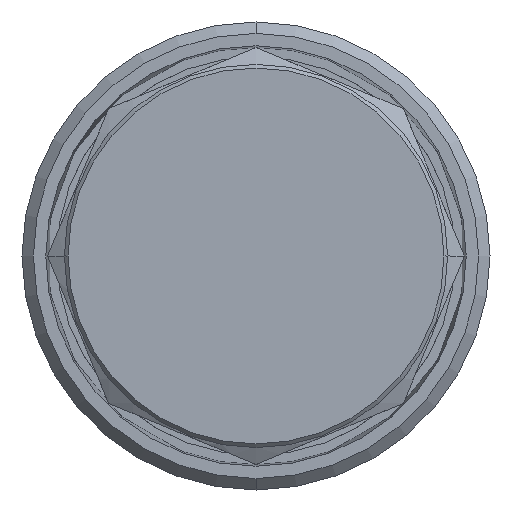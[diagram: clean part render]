
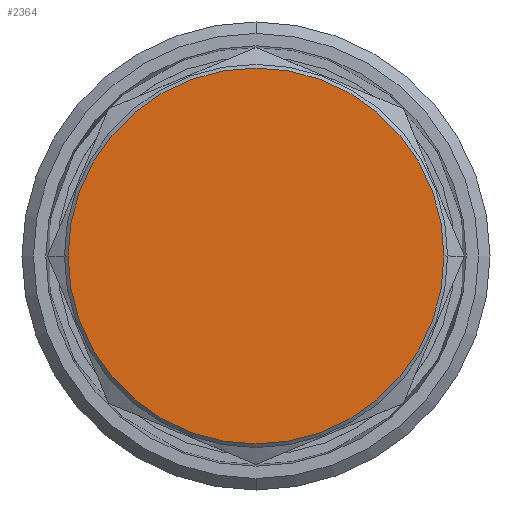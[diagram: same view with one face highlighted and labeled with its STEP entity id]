
A CAD part, front view. The second image highlights one B-rep face of the part: STEP entity #2364.
In plain terms, the highlighted planar face has unit normal (0, -1, 0).
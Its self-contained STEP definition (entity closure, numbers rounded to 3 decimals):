
#8 = AXIS2_PLACEMENT_3D ( 'NONE', #1221, #1120, #713 ) ;
#23 = DIRECTION ( 'NONE',  ( 0., 0., 1. ) ) ;
#48 = CIRCLE ( 'NONE', #1730, 15.625 ) ;
#270 = VERTEX_POINT ( 'NONE', #2569 ) ;
#713 = DIRECTION ( 'NONE',  ( -1., 0., 0. ) ) ;
#880 = CARTESIAN_POINT ( 'NONE',  ( 20.905, -4.65, -8.659 ) ) ;
#1120 = DIRECTION ( 'NONE',  ( 0., 1., 0. ) ) ;
#1221 = CARTESIAN_POINT ( 'NONE',  ( 0., -4.65, 0. ) ) ;
#1728 = DIRECTION ( 'NONE',  ( 0., 1., 0. ) ) ;
#1730 = AXIS2_PLACEMENT_3D ( 'NONE', #3768, #1728, #4581 ) ;
#1934 = AXIS2_PLACEMENT_3D ( 'NONE', #880, #2507, #23 ) ;
#1954 = EDGE_LOOP ( 'NONE', ( #2050, #3096 ) ) ;
#2050 = ORIENTED_EDGE ( 'NONE', *, *, #3388, .F. ) ;
#2364 = ADVANCED_FACE ( 'NONE', ( #2985 ), #3309, .F. ) ;
#2507 = DIRECTION ( 'NONE',  ( 0., 1., 0. ) ) ;
#2569 = CARTESIAN_POINT ( 'NONE',  ( 15.625, -4.65, 0. ) ) ;
#2985 = FACE_OUTER_BOUND ( 'NONE', #1954, .T. ) ;
#3096 = ORIENTED_EDGE ( 'NONE', *, *, #3532, .F. ) ;
#3309 = PLANE ( 'NONE',  #1934 ) ;
#3388 = EDGE_CURVE ( 'NONE', #3743, #270, #4766, .T. ) ;
#3532 = EDGE_CURVE ( 'NONE', #270, #3743, #48, .T. ) ;
#3560 = CARTESIAN_POINT ( 'NONE',  ( -15.625, -4.65, 0. ) ) ;
#3743 = VERTEX_POINT ( 'NONE', #3560 ) ;
#3768 = CARTESIAN_POINT ( 'NONE',  ( 0., -4.65, 0. ) ) ;
#4581 = DIRECTION ( 'NONE',  ( -1., 0., 0. ) ) ;
#4766 = CIRCLE ( 'NONE', #8, 15.625 ) ;
